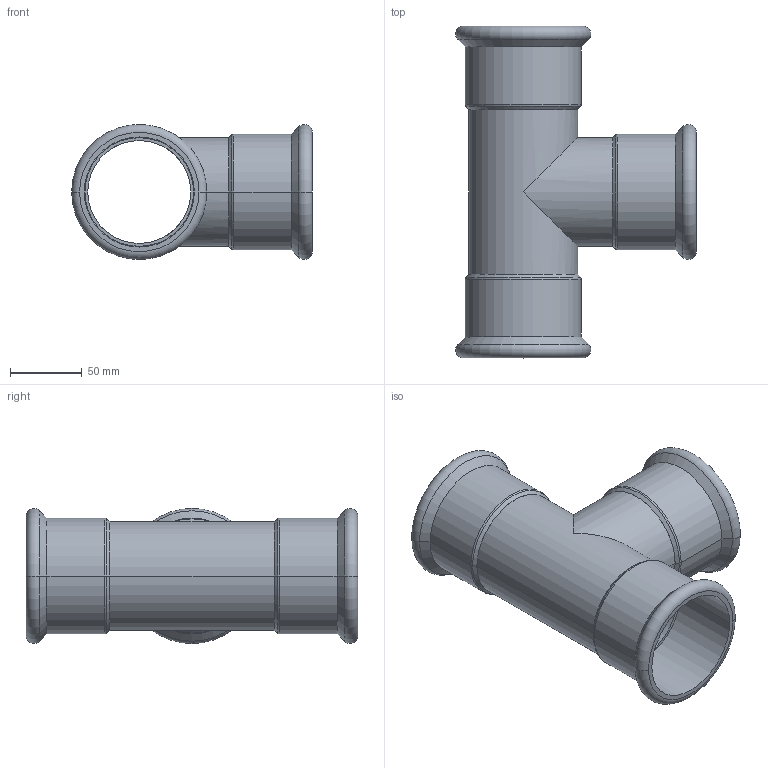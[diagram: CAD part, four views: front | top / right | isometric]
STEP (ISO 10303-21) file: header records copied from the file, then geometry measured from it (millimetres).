
FILE_DESCRIPTION(('CoCreate Modeling STEP Export'),'2;1');
FILE_NAME('C1414 76.1x76.1x76.1.stp','2014-11-11T16:58:37',(''),(''),'CoCreate Modeling STEP processor for AP214 (Solid Model)','CoCreate Modeling 17.00A 17-Jun-2010 (C) Parametric Technology GmbH','');
FILE_SCHEMA(('AUTOMOTIVE_DESIGN { 1 0 10303 214 1 1 1 1 }'));
Length unit declared in the file: millimetre
Products named in the file (2): C1414_76x76x76
Assembly tree (1 placements, depth 2):
  C1414_76x76x76
    C1414_76x76x76
Bounding box: 168.24 x 232 x 94.48 mm (x, y, z)
Volume: 207899.6 mm3; surface area: 162048.4 mm2
Topology: 1 solids, 1 shells, 82 faces, 189 edges, 119 vertices
Faces by surface type: cylinder 32, plane 26, cone 12, torus 12
Entity records: 1969 total; most frequent: ORIENTED_EDGE 378, CARTESIAN_POINT 302, DIRECTION 298, EDGE_CURVE 189, VERTEX_POINT 119, AXIS2_PLACEMENT_3D 115, EDGE_LOOP 96, FACE_OUTER_BOUND 82
